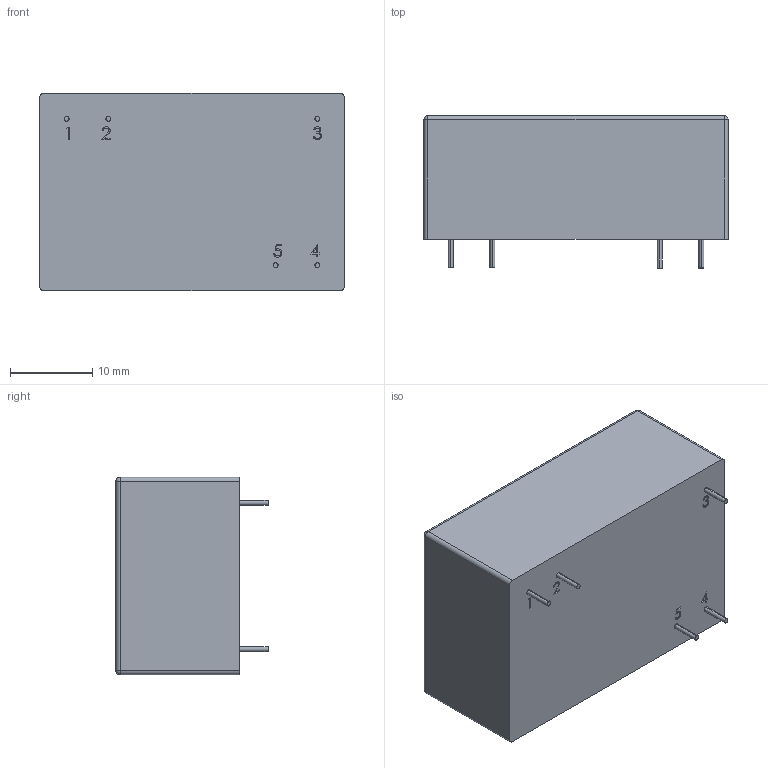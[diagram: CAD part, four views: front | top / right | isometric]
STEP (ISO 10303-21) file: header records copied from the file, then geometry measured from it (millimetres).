
FILE_DESCRIPTION(('FreeCAD Model'),'2;1');
FILE_NAME('X:/Application Engineering/4 Documentation/3 Users/1 MaS/3D Projekt/RAC04-GA_3D_20190723.step','2019-07-23T10:36:55',('Author'),('') ,'Open CASCADE STEP processor 7.3','FreeCAD','Unknown');
FILE_SCHEMA(('AUTOMOTIVE_DESIGN { 1 0 10303 214 1 1 1 1 }'));
Length unit declared in the file: millimetre
Products named in the file (1): RAC04-GA
Bounding box: 37 x 18.5 x 24 mm (x, y, z)
Volume: 13299.5 mm3; surface area: 3647.2 mm2
Topology: 1 solids, 1 shells, 246 faces, 658 edges, 432 vertices
Faces by surface type: plane 136, cylinder 78, bspline 28, sphere 4
Entity records: 10866 total; most frequent: CARTESIAN_POINT 3041, ORIENTED_EDGE 1308, DIRECTION 1192, EDGE_CURVE 654, LINE 442, VECTOR 442, VERTEX_POINT 432, AXIS2_PLACEMENT_3D 375
